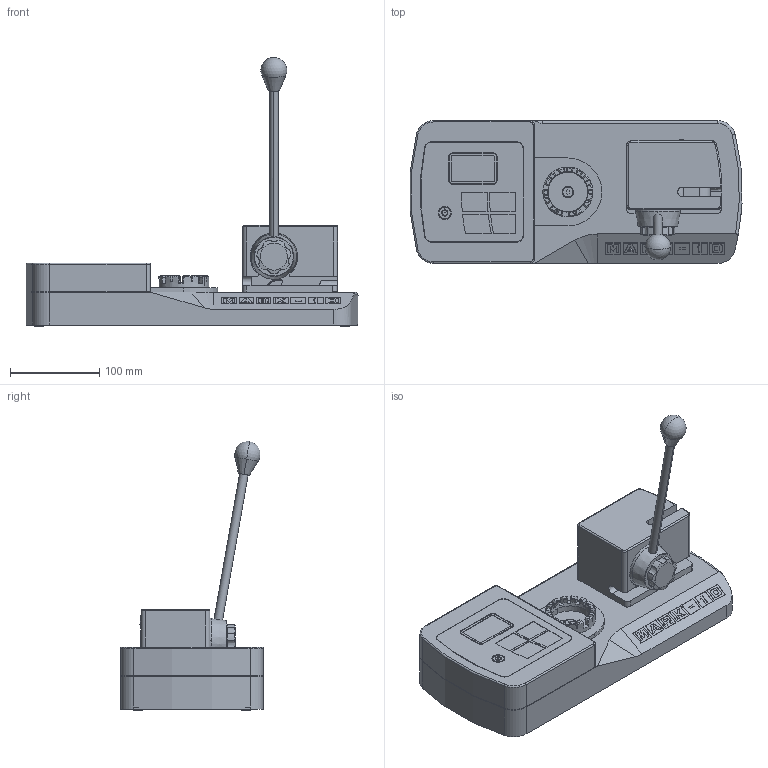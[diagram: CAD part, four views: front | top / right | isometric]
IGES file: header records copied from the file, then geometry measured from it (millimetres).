
Global section: file name: No Iges File Name specified; native system: Autodesk Inventor 2010; preprocessor: AutoDesk Inventor Iges Exporter R2010; author: mlampen; date: 20170418.115524; units: inch
Bounding box: 372.12 x 160.02 x 301.82 mm (x, y, z)
Volume: 3411603.7 mm3; surface area: 252437.8 mm2
Topology: 7 solids, 7 shells, 1404 faces, 3582 edges, 2323 vertices
Faces by surface type: plane 620, revolution 318, cylinder 202, bspline 143, cone 95, torus 23, sphere 3
